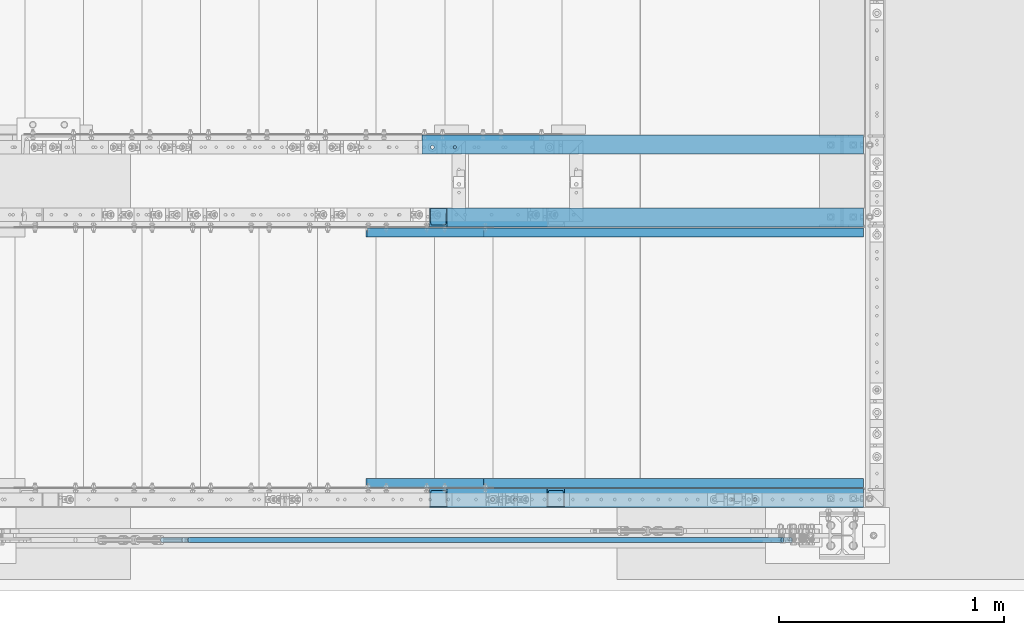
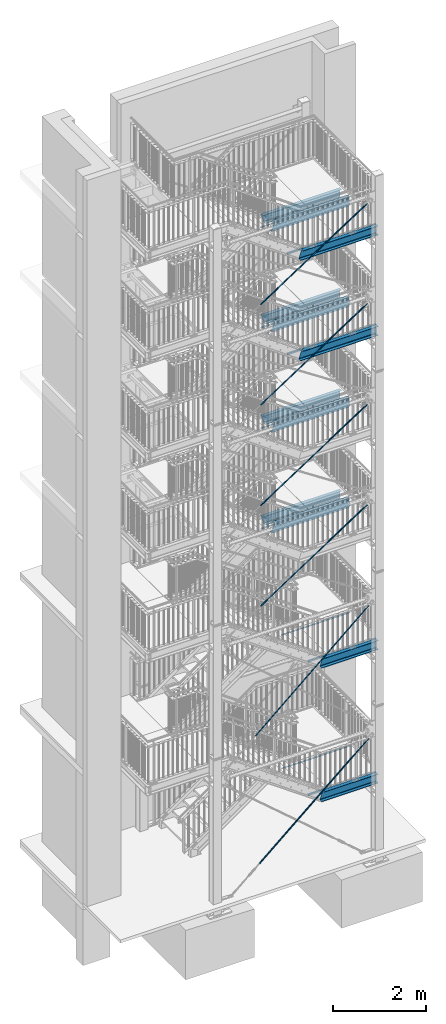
# One storey, part 130 of 831: 22 beams, 6 members, 44 openings.
"""IFC2X3 building model written with IfcOpenShell, lengths in millimetres."""

from ifc_helpers import new_model, entity, si_unit, converted_unit, frame, frame_2d, origin, origin_with_axes, origin_2d, origin_2d_with_axis, place, context, project, spatial, circle, l_section, u_section, extrude, clip, halfspace, material, element, save


model = new_model("IFC2X3")

# Units and contexts
model_context = context("Model", 3, precision=1e-09, world=origin_with_axes())
ifc_project = project(units=[si_unit("LENGTHUNIT", "METRE", prefix="MILLI"), si_unit("AREAUNIT", "SQUARE_METRE"), si_unit("VOLUMEUNIT", "CUBIC_METRE"), converted_unit("PLANEANGLEUNIT", "DEGREE", entity("IfcPlaneAngleMeasure", 0.01745329), si_unit("PLANEANGLEUNIT", "RADIAN"), dimensions=[0, 0, 0, 0, 0, 0, 0])], contexts=[model_context])

# Site, building, storey
site_placement = place(None, origin_with_axes())
site = spatial("IfcSite", under=ifc_project, at=site_placement, Name="Site", CompositionType="ELEMENT")
building_placement = place(site_placement, origin_with_axes())
building = spatial("IfcBuilding", under=site, at=building_placement, Name="Struktur 1", CompositionType="ELEMENT")
storey_placement = place(building_placement, origin_with_axes())
storey = spatial("IfcBuildingStorey", under=building, at=storey_placement, Name="Default Storey", CompositionType="ELEMENT", Elevation=0.0)

# Beam, openings
ifc_material = material(Name="S235JR")
beam_1_placement = place(None, frame((9219.017173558, 5759.036971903, 8516.0), z_axis=(1.0, 0.0, 0.0), x_axis=(0.0, 1.0, 0.0)))
beam_1 = element("IfcBeam", 1, at=beam_1_placement, inside=storey, material=ifc_material, Name="BottomLanding#1", ObjectType="BottomLanding#1", context=model_context, shape_type="Clipping", body=[
    clip(clip(extrude(u_section(Depth=240.0, FlangeWidth=85.0, WebThickness=9.5, FlangeThickness=13.0, FilletRadius=13.0, EdgeRadius=6.5, FlangeSlope=4.574, at=frame_2d((20.2, 0.0))), origin(), (0.0, 0.0, -1.0), 2366.919417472), halfspace(frame((-5759.036971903, -8516.0, -257.304770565), z_axis=(0.0, 0.0, -1.0), x_axis=(-1.0, 0.0, 0.0)), True)), halfspace(frame((-5759.036971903, -9780.725399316, -5311.494172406), z_axis=(0.0, -0.307936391, 0.951406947), x_axis=(1.0, 0.0, 0.0)), True)),
])
opening_1_placement = place(beam_1_placement, frame((15.699, -120.5, -402.303770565), z_axis=(0.0, -1.0, 0.0), x_axis=(1.0, 0.0, 0.0)))
element("IfcOpeningElement", 2, at=opening_1_placement, cuts=beam_1, ObjectType="Opening", context=model_context, shape_type="SweptSolid", body=[
    extrude(circle(Radius=7.001, at=frame_2d((7.001, 0.0), x_axis=(1.0, 0.0))), origin(), (0.0, 0.0, -1.0), 14.0),
])
opening_2_placement = place(beam_1_placement, frame((15.699, -120.5, -302.303770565), z_axis=(0.0, -1.0, 0.0), x_axis=(1.0, 0.0, 0.0)))
element("IfcOpeningElement", 3, at=opening_2_placement, cuts=beam_1, ObjectType="Opening", context=model_context, shape_type="SweptSolid", body=[
    extrude(circle(Radius=7.001, at=frame_2d((7.001, 0.0), x_axis=(1.0, 0.0))), origin(), (0.0, 0.0, -1.0), 14.0),
])

# Beam
beam_2_placement = place(None, frame((6757.757393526, 5722.536971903, 8624.8), z_axis=(-1.0, 0.0, 0.0), x_axis=(0.0, 0.0, -1.0)))
element("IfcBeam", 4, at=beam_2_placement, inside=storey, material=ifc_material, Name="BottomLanding#3", ObjectType="BottomLanding#3", context=model_context, shape_type="SweptSolid", body=[
    extrude(l_section(Depth=40.0, Width=40.0, Thickness=4.0, FilletRadius=6.0, EdgeRadius=3.0, at=frame_2d((8.8, 8.8))), origin(), (0.0, 0.0, -1.0), 2203.956009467),
])

# Beam, openings
beam_3_placement = place(None, frame((6741.392105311, 6124.436971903, 11145.5000003), z_axis=(-1.0, 0.0, 0.0), x_axis=(0.0, -1.0, 0.0)))
beam_3 = element("IfcBeam", 5, at=beam_3_placement, inside=storey, material=ifc_material, Name="Stringer", ObjectType="Stringer", context=model_context, shape_type="Clipping", body=[
    clip(clip(extrude(u_section(Depth=240.0, FlangeWidth=85.0, WebThickness=9.5, FlangeThickness=13.0, FilletRadius=13.0, EdgeRadius=6.5, FlangeSlope=4.574, at=frame_2d((20.2, 0.0))), origin(), (0.0, 0.0, -1.0), 2477.625068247), halfspace(frame((6124.436971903, -11145.5000003, -2220.320297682), z_axis=(0.0, 0.0, 1.0), x_axis=(1.0, 0.0, 0.0)), True)), halfspace(frame((6124.436971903, -8031.601758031, -2894.216134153), z_axis=(0.0, 0.307506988, -0.951545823), x_axis=(-1.0, 0.0, 0.0)), True)),
])
opening_3_placement = place(beam_3_placement, frame((32.7, 120.5, -398.321297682), z_axis=(0.0, 1.0, 0.0), x_axis=(-1.0, 0.0, 0.0)))
element("IfcOpeningElement", 6, at=opening_3_placement, cuts=beam_3, ObjectType="Opening", context=model_context, shape_type="SweptSolid", body=[
    extrude(circle(Radius=7.001, at=frame_2d((0.0, -7.001), x_axis=(1.0, 0.0))), origin(), (0.0, 0.0, -1.0), 14.0),
])
opening_4_placement = place(beam_3_placement, frame((32.7, 120.5, -298.321297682), z_axis=(0.0, 1.0, 0.0), x_axis=(-1.0, 0.0, 0.0)))
element("IfcOpeningElement", 7, at=opening_4_placement, cuts=beam_3, ObjectType="Opening", context=model_context, shape_type="SweptSolid", body=[
    extrude(circle(Radius=7.001, at=frame_2d((0.0, -7.001), x_axis=(1.0, 0.0))), origin(), (0.0, 0.0, -1.0), 14.0),
])
opening_5_placement = place(beam_3_placement, frame((22.7, -120.5, -2175.321297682), z_axis=(0.0, 1.0, 0.0), x_axis=(-1.0, 0.0, 0.0)))
element("IfcOpeningElement", 8, at=opening_5_placement, cuts=beam_3, ObjectType="Opening", context=model_context, shape_type="SweptSolid", body=[
    extrude(circle(Radius=7.001, at=origin_2d_with_axis()), origin(), (0.0, 0.0, 1.0), 14.0),
])
opening_6_placement = place(beam_3_placement, frame((22.7, -120.5, -2075.321297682), z_axis=(0.0, 1.0, 0.0), x_axis=(-1.0, 0.0, 0.0)))
element("IfcOpeningElement", 9, at=opening_6_placement, cuts=beam_3, ObjectType="Opening", context=model_context, shape_type="SweptSolid", body=[
    extrude(circle(Radius=7.001, at=origin_2d_with_axis()), origin(), (0.0, 0.0, 1.0), 14.0),
])

beam_4_placement = place(None, frame((6741.459458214, 6124.436971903, 8516.0), z_axis=(-1.0, 0.0, 0.0), x_axis=(0.0, -1.0, 0.0)))
beam_4 = element("IfcBeam", 10, at=beam_4_placement, inside=storey, material=ifc_material, Name="Stringer", ObjectType="Stringer", context=model_context, shape_type="Clipping", body=[
    clip(clip(extrude(u_section(Depth=240.0, FlangeWidth=85.0, WebThickness=9.5, FlangeThickness=13.0, FilletRadius=13.0, EdgeRadius=6.5, FlangeSlope=4.574, at=frame_2d((20.2, 0.0))), origin(), (0.0, 0.0, -1.0), 2477.557715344), halfspace(frame((6124.436971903, -8516.0, -2220.25294478), z_axis=(0.0, 0.0, 1.0), x_axis=(1.0, 0.0, 0.0)), True)), halfspace(frame((6124.436971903, -5645.874307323, -2126.143079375), z_axis=(0.0, 0.307936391, -0.951406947), x_axis=(-1.0, 0.0, 0.0)), True)),
])
opening_7_placement = place(beam_4_placement, frame((32.7, 120.5, -398.25394478), z_axis=(0.0, 1.0, 0.0), x_axis=(-1.0, 0.0, 0.0)))
element("IfcOpeningElement", 11, at=opening_7_placement, cuts=beam_4, ObjectType="Opening", context=model_context, shape_type="SweptSolid", body=[
    extrude(circle(Radius=7.001, at=frame_2d((0.0, -7.001), x_axis=(1.0, 0.0))), origin(), (0.0, 0.0, -1.0), 14.0),
])
opening_8_placement = place(beam_4_placement, frame((32.7, 120.5, -298.25394478), z_axis=(0.0, 1.0, 0.0), x_axis=(-1.0, 0.0, 0.0)))
element("IfcOpeningElement", 12, at=opening_8_placement, cuts=beam_4, ObjectType="Opening", context=model_context, shape_type="SweptSolid", body=[
    extrude(circle(Radius=7.001, at=frame_2d((0.0, -7.001), x_axis=(1.0, 0.0))), origin(), (0.0, 0.0, -1.0), 14.0),
])
opening_9_placement = place(beam_4_placement, frame((22.7, -120.5, -2075.25394478), z_axis=(0.0, 1.0, 0.0), x_axis=(-1.0, 0.0, 0.0)))
element("IfcOpeningElement", 13, at=opening_9_placement, cuts=beam_4, ObjectType="Opening", context=model_context, shape_type="SweptSolid", body=[
    extrude(circle(Radius=7.001, at=origin_2d_with_axis()), origin(), (0.0, 0.0, 1.0), 14.0),
])
opening_10_placement = place(beam_4_placement, frame((22.7, -120.5, -2175.25394478), z_axis=(0.0, 1.0, 0.0), x_axis=(-1.0, 0.0, 0.0)))
element("IfcOpeningElement", 14, at=opening_10_placement, cuts=beam_4, ObjectType="Opening", context=model_context, shape_type="SweptSolid", body=[
    extrude(circle(Radius=7.001, at=origin_2d_with_axis()), origin(), (0.0, 0.0, 1.0), 14.0),
])

beam_5_placement = place(None, frame((6741.499671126, 6124.436971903, 13776.5000001), z_axis=(-1.0, 0.0, 0.0), x_axis=(0.0, -1.0, 0.0)))
beam_5 = element("IfcBeam", 15, at=beam_5_placement, inside=storey, material=ifc_material, Name="Stringer", ObjectType="Stringer", context=model_context, shape_type="Clipping", body=[
    clip(clip(extrude(u_section(Depth=240.0, FlangeWidth=85.0, WebThickness=9.5, FlangeThickness=13.0, FilletRadius=13.0, EdgeRadius=6.5, FlangeSlope=4.574, at=frame_2d((20.2, 0.0))), origin(), (0.0, 0.0, -1.0), 2477.517502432), halfspace(frame((6124.436971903, -13776.5000001, -2220.212731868), z_axis=(0.0, 0.0, 1.0), x_axis=(1.0, 0.0, 0.0)), True)), halfspace(frame((6124.436971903, -10403.792085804, -3669.278777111), z_axis=(0.0, 0.308193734, -0.951323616), x_axis=(-1.0, 0.0, 0.0)), True)),
])
opening_11_placement = place(beam_5_placement, frame((32.7, 120.5, -398.213731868), z_axis=(0.0, 1.0, 0.0), x_axis=(-1.0, 0.0, 0.0)))
element("IfcOpeningElement", 16, at=opening_11_placement, cuts=beam_5, ObjectType="Opening", context=model_context, shape_type="SweptSolid", body=[
    extrude(circle(Radius=7.001, at=frame_2d((0.0, -7.001), x_axis=(1.0, 0.0))), origin(), (0.0, 0.0, -1.0), 14.0),
])
opening_12_placement = place(beam_5_placement, frame((32.7, 120.5, -298.213731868), z_axis=(0.0, 1.0, 0.0), x_axis=(-1.0, 0.0, 0.0)))
element("IfcOpeningElement", 17, at=opening_12_placement, cuts=beam_5, ObjectType="Opening", context=model_context, shape_type="SweptSolid", body=[
    extrude(circle(Radius=7.001, at=frame_2d((0.0, -7.001), x_axis=(1.0, 0.0))), origin(), (0.0, 0.0, -1.0), 14.0),
])
opening_13_placement = place(beam_5_placement, frame((22.7, -120.5, -2175.213731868), z_axis=(0.0, 1.0, 0.0), x_axis=(-1.0, 0.0, 0.0)))
element("IfcOpeningElement", 18, at=opening_13_placement, cuts=beam_5, ObjectType="Opening", context=model_context, shape_type="SweptSolid", body=[
    extrude(circle(Radius=7.001, at=origin_2d_with_axis()), origin(), (0.0, 0.0, 1.0), 14.0),
])
opening_14_placement = place(beam_5_placement, frame((22.7, -120.5, -2075.213731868), z_axis=(0.0, 1.0, 0.0), x_axis=(-1.0, 0.0, 0.0)))
element("IfcOpeningElement", 19, at=opening_14_placement, cuts=beam_5, ObjectType="Opening", context=model_context, shape_type="SweptSolid", body=[
    extrude(circle(Radius=7.001, at=origin_2d_with_axis()), origin(), (0.0, 0.0, 1.0), 14.0),
])

beam_6_placement = place(None, frame((6741.297112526, 6124.436971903, 16404.0000003), z_axis=(-1.0, 0.0, 0.0), x_axis=(0.0, -1.0, 0.0)))
beam_6 = element("IfcBeam", 20, at=beam_6_placement, inside=storey, material=ifc_material, Name="Stringer", ObjectType="Stringer", context=model_context, shape_type="Clipping", body=[
    clip(clip(extrude(u_section(Depth=240.0, FlangeWidth=85.0, WebThickness=9.5, FlangeThickness=13.0, FilletRadius=13.0, EdgeRadius=6.5, FlangeSlope=4.574, at=frame_2d((20.2, 0.0))), origin(), (0.0, 0.0, -1.0), 2477.720061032), halfspace(frame((6124.436971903, -16404.0000003, -2220.415290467), z_axis=(0.0, 0.0, 1.0), x_axis=(1.0, 0.0, 0.0)), True)), halfspace(frame((6124.436971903, -12802.606591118, -4426.958467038), z_axis=(0.0, 0.306904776, -0.951740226), x_axis=(-1.0, 0.0, 0.0)), True)),
])
opening_15_placement = place(beam_6_placement, frame((32.7, 120.5, -398.416290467), z_axis=(0.0, 1.0, 0.0), x_axis=(-1.0, 0.0, 0.0)))
element("IfcOpeningElement", 21, at=opening_15_placement, cuts=beam_6, ObjectType="Opening", context=model_context, shape_type="SweptSolid", body=[
    extrude(circle(Radius=7.001, at=frame_2d((0.0, -7.001), x_axis=(1.0, 0.0))), origin(), (0.0, 0.0, -1.0), 14.0),
])
opening_16_placement = place(beam_6_placement, frame((32.7, 120.5, -298.416290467), z_axis=(0.0, 1.0, 0.0), x_axis=(-1.0, 0.0, 0.0)))
element("IfcOpeningElement", 22, at=opening_16_placement, cuts=beam_6, ObjectType="Opening", context=model_context, shape_type="SweptSolid", body=[
    extrude(circle(Radius=7.001, at=frame_2d((0.0, -7.001), x_axis=(1.0, 0.0))), origin(), (0.0, 0.0, -1.0), 14.0),
])
opening_17_placement = place(beam_6_placement, frame((22.7, -120.5, -2075.416290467), z_axis=(0.0, 1.0, 0.0), x_axis=(-1.0, 0.0, 0.0)))
element("IfcOpeningElement", 23, at=opening_17_placement, cuts=beam_6, ObjectType="Opening", context=model_context, shape_type="SweptSolid", body=[
    extrude(circle(Radius=7.001, at=origin_2d_with_axis()), origin(), (0.0, 0.0, 1.0), 14.0),
])
opening_18_placement = place(beam_6_placement, frame((22.7, -120.5, -2175.416290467), z_axis=(0.0, 1.0, 0.0), x_axis=(-1.0, 0.0, 0.0)))
element("IfcOpeningElement", 24, at=opening_18_placement, cuts=beam_6, ObjectType="Opening", context=model_context, shape_type="SweptSolid", body=[
    extrude(circle(Radius=7.001, at=origin_2d_with_axis()), origin(), (0.0, 0.0, 1.0), 14.0),
])

beam_7_placement = place(None, frame((9219.017173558, 5759.036971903, 11145.5000003), z_axis=(1.0, 0.0, 0.0), x_axis=(0.0, 1.0, 0.0)))
beam_7 = element("IfcBeam", 25, at=beam_7_placement, inside=storey, material=ifc_material, Name="BottomLanding#1", ObjectType="BottomLanding#1", context=model_context, shape_type="Clipping", body=[
    clip(clip(extrude(u_section(Depth=240.0, FlangeWidth=85.0, WebThickness=9.5, FlangeThickness=13.0, FilletRadius=13.0, EdgeRadius=6.5, FlangeSlope=4.574, at=frame_2d((20.2, 0.0))), origin(), (0.0, 0.0, -1.0), 2366.776191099), halfspace(frame((-5759.036971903, -11145.5000003, -257.304770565), z_axis=(0.0, 0.0, -1.0), x_axis=(-1.0, 0.0, 0.0)), True)), halfspace(frame((-5759.036971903, -12161.289703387, -6075.770068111), z_axis=(0.0, -0.307506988, 0.951545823), x_axis=(1.0, 0.0, 0.0)), True)),
])
opening_19_placement = place(beam_7_placement, frame((15.699, -120.5, -402.303770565), z_axis=(0.0, -1.0, 0.0), x_axis=(1.0, 0.0, 0.0)))
element("IfcOpeningElement", 26, at=opening_19_placement, cuts=beam_7, ObjectType="Opening", context=model_context, shape_type="SweptSolid", body=[
    extrude(circle(Radius=7.001, at=frame_2d((7.001, 0.0), x_axis=(1.0, 0.0))), origin(), (0.0, 0.0, -1.0), 14.0),
])
opening_20_placement = place(beam_7_placement, frame((15.699, -120.5, -302.303770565), z_axis=(0.0, -1.0, 0.0), x_axis=(1.0, 0.0, 0.0)))
element("IfcOpeningElement", 27, at=opening_20_placement, cuts=beam_7, ObjectType="Opening", context=model_context, shape_type="SweptSolid", body=[
    extrude(circle(Radius=7.001, at=frame_2d((7.001, 0.0), x_axis=(1.0, 0.0))), origin(), (0.0, 0.0, -1.0), 14.0),
])

# Beam
beam_8_placement = place(None, frame((6757.455876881, 5722.536971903, 11254.3000003), z_axis=(-1.0, 0.0, 0.0), x_axis=(0.0, 0.0, -1.0)))
element("IfcBeam", 28, at=beam_8_placement, inside=storey, material=ifc_material, Name="BottomLanding#3", ObjectType="BottomLanding#3", context=model_context, shape_type="SweptSolid", body=[
    extrude(l_section(Depth=40.0, Width=40.0, Thickness=4.0, FilletRadius=6.0, EdgeRadius=3.0, at=frame_2d((8.8, 8.8))), origin(), (0.0, 0.0, -1.0), 2204.257526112),
])

# Beam, openings
beam_9_placement = place(None, frame((9219.017173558, 5759.036971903, 13776.5000001), z_axis=(1.0, 0.0, 0.0), x_axis=(0.0, 1.0, 0.0)))
beam_9 = element("IfcBeam", 29, at=beam_9_placement, inside=storey, material=ifc_material, Name="BottomLanding#1", ObjectType="BottomLanding#1", context=model_context, shape_type="Clipping", body=[
    clip(clip(extrude(u_section(Depth=240.0, FlangeWidth=85.0, WebThickness=9.5, FlangeThickness=13.0, FilletRadius=13.0, EdgeRadius=6.5, FlangeSlope=4.574, at=frame_2d((20.2, 0.0))), origin(), (0.0, 0.0, -1.0), 2367.00516843), halfspace(frame((-5759.036971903, -13776.5000001, -257.304770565), z_axis=(0.0, 0.0, -1.0), x_axis=(-1.0, 0.0, 0.0)), True)), halfspace(frame((-5759.036971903, -14541.73622123, -6856.907864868), z_axis=(0.0, -0.308193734, 0.951323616), x_axis=(1.0, 0.0, 0.0)), True)),
])
opening_21_placement = place(beam_9_placement, frame((15.699, -120.5, -302.303770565), z_axis=(0.0, -1.0, 0.0), x_axis=(1.0, 0.0, 0.0)))
element("IfcOpeningElement", 30, at=opening_21_placement, cuts=beam_9, ObjectType="Opening", context=model_context, shape_type="SweptSolid", body=[
    extrude(circle(Radius=7.001, at=frame_2d((7.001, 0.0), x_axis=(1.0, 0.0))), origin(), (0.0, 0.0, -1.0), 14.0),
])
opening_22_placement = place(beam_9_placement, frame((15.699, -120.5, -402.303770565), z_axis=(0.0, -1.0, 0.0), x_axis=(1.0, 0.0, 0.0)))
element("IfcOpeningElement", 31, at=opening_22_placement, cuts=beam_9, ObjectType="Opening", context=model_context, shape_type="SweptSolid", body=[
    extrude(circle(Radius=7.001, at=frame_2d((7.001, 0.0), x_axis=(1.0, 0.0))), origin(), (0.0, 0.0, -1.0), 14.0),
])

beam_10_placement = place(None, frame((9219.017173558, 4554.436971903, 13776.5000001), z_axis=(-1.0, 0.0, 0.0), x_axis=(0.0, -1.0, 0.0)))
beam_10 = element("IfcBeam", 32, at=beam_10_placement, inside=storey, material=ifc_material, Name="BottomLanding#2", ObjectType="BottomLanding#2", context=model_context, shape_type="Clipping", body=[
    clip(clip(extrude(u_section(Depth=240.0, FlangeWidth=85.0, WebThickness=9.5, FlangeThickness=13.0, FilletRadius=13.0, EdgeRadius=6.5, FlangeSlope=4.574, at=frame_2d((20.2, 0.0))), origin(), (0.0, 0.0, 1.0), 2367.00516843), halfspace(frame((4554.436971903, -13776.5000001, 257.304770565), z_axis=(0.0, 0.0, 1.0), x_axis=(1.0, 0.0, 0.0)), True)), halfspace(frame((4554.436971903, -14541.73622123, 6856.907864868), z_axis=(0.0, -0.308193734, -0.951323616), x_axis=(-1.0, 0.0, 0.0)), True)),
])
opening_23_placement = place(beam_10_placement, frame((27.7, 120.5, 1897.224056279), z_axis=(0.0, 1.0, 0.0), x_axis=(-1.0, 0.0, 0.0)))
element("IfcOpeningElement", 33, at=opening_23_placement, cuts=beam_10, ObjectType="Opening", context=model_context, shape_type="SweptSolid", body=[
    extrude(circle(Radius=7.001, at=frame_2d((0.0, 7.001), x_axis=(1.0, 0.0))), origin(), (0.0, 0.0, -1.0), 14.0),
])
opening_24_placement = place(beam_10_placement, frame((27.7, 120.5, 1797.224056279), z_axis=(0.0, 1.0, 0.0), x_axis=(-1.0, 0.0, 0.0)))
element("IfcOpeningElement", 34, at=opening_24_placement, cuts=beam_10, ObjectType="Opening", context=model_context, shape_type="SweptSolid", body=[
    extrude(circle(Radius=7.001, at=frame_2d((0.0, 7.001), x_axis=(1.0, 0.0))), origin(), (0.0, 0.0, -1.0), 14.0),
])
opening_25_placement = place(beam_10_placement, frame((27.7, 120.5, 912.223913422), z_axis=(0.0, 1.0, 0.0), x_axis=(-1.0, 0.0, 0.0)))
element("IfcOpeningElement", 35, at=opening_25_placement, cuts=beam_10, ObjectType="Opening", context=model_context, shape_type="SweptSolid", body=[
    extrude(circle(Radius=7.001, at=frame_2d((0.0, 7.001), x_axis=(1.0, 0.0))), origin(), (0.0, 0.0, -1.0), 14.0),
])
opening_26_placement = place(beam_10_placement, frame((27.7, 120.5, 812.223913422), z_axis=(0.0, 1.0, 0.0), x_axis=(-1.0, 0.0, 0.0)))
element("IfcOpeningElement", 36, at=opening_26_placement, cuts=beam_10, ObjectType="Opening", context=model_context, shape_type="SweptSolid", body=[
    extrude(circle(Radius=7.001, at=frame_2d((0.0, 7.001), x_axis=(1.0, 0.0))), origin(), (0.0, 0.0, -1.0), 14.0),
])
opening_27_placement = place(beam_10_placement, frame((29.701, -120.5, 402.303770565), z_axis=(0.0, -1.0, 0.0), x_axis=(1.0, 0.0, 0.0)))
element("IfcOpeningElement", 37, at=opening_27_placement, cuts=beam_10, ObjectType="Opening", context=model_context, shape_type="SweptSolid", body=[
    extrude(circle(Radius=7.001, at=frame_2d((-7.001, 0.0), x_axis=(1.0, 0.0))), origin(), (0.0, 0.0, -1.0), 14.0),
])
opening_28_placement = place(beam_10_placement, frame((29.701, -120.5, 302.303770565), z_axis=(0.0, -1.0, 0.0), x_axis=(1.0, 0.0, 0.0)))
element("IfcOpeningElement", 38, at=opening_28_placement, cuts=beam_10, ObjectType="Opening", context=model_context, shape_type="SweptSolid", body=[
    extrude(circle(Radius=7.001, at=frame_2d((-7.001, 0.0), x_axis=(1.0, 0.0))), origin(), (0.0, 0.0, -1.0), 14.0),
])

# Beams
for number, where, z_axis, x_axis, name in (
    (39, (8961.713402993, 4590.936971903, 13885.3000001), (1.0, 0.0, 0.0), (0.0, 0.0, -1.0), "BottomLanding#3"),
    (40, (6757.937594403, 5722.536971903, 13885.3000001), (-1.0, 0.0, 0.0), (0.0, 0.0, -1.0), "BottomLanding#3"),
):
    element("IfcBeam", number, at=place(None, frame(where, z_axis=z_axis, x_axis=x_axis)), inside=storey, material=ifc_material, Name=name, ObjectType="BottomLanding#3", context=model_context, shape_type="SweptSolid", body=[
        extrude(l_section(Depth=40.0, Width=40.0, Thickness=4.0, FilletRadius=6.0, EdgeRadius=3.0, at=frame_2d((8.8, 8.8))), origin(), (0.0, 0.0, -1.0), 2203.77580859),
    ])

# Beam, openings
beam_11_placement = place(None, frame((9219.017173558, 5759.036971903, 16404.0000003), z_axis=(1.0, 0.0, 0.0), x_axis=(0.0, 1.0, 0.0)))
beam_11 = element("IfcBeam", 41, at=beam_11_placement, inside=storey, material=ifc_material, Name="BottomLanding#1", ObjectType="BottomLanding#1", context=model_context, shape_type="Clipping", body=[
    clip(clip(extrude(u_section(Depth=240.0, FlangeWidth=85.0, WebThickness=9.5, FlangeThickness=13.0, FilletRadius=13.0, EdgeRadius=6.5, FlangeSlope=4.574, at=frame_2d((20.2, 0.0))), origin(), (0.0, 0.0, -1.0), 2366.575023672), halfspace(frame((-5759.036971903, -16404.0000003, -257.304770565), z_axis=(0.0, 0.0, -1.0), x_axis=(-1.0, 0.0, 0.0)), True)), halfspace(frame((-5759.036971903, -16925.049146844, -7603.195357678), z_axis=(0.0, -0.306904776, 0.951740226), x_axis=(1.0, 0.0, 0.0)), True)),
])
opening_29_placement = place(beam_11_placement, frame((15.699, -120.5, -402.303770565), z_axis=(0.0, -1.0, 0.0), x_axis=(1.0, 0.0, 0.0)))
element("IfcOpeningElement", 42, at=opening_29_placement, cuts=beam_11, ObjectType="Opening", context=model_context, shape_type="SweptSolid", body=[
    extrude(circle(Radius=7.001, at=frame_2d((7.001, 0.0), x_axis=(1.0, 0.0))), origin(), (0.0, 0.0, -1.0), 14.0),
])
opening_30_placement = place(beam_11_placement, frame((15.699, -120.5, -302.303770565), z_axis=(0.0, -1.0, 0.0), x_axis=(1.0, 0.0, 0.0)))
element("IfcOpeningElement", 43, at=opening_30_placement, cuts=beam_11, ObjectType="Opening", context=model_context, shape_type="SweptSolid", body=[
    extrude(circle(Radius=7.001, at=frame_2d((7.001, 0.0), x_axis=(1.0, 0.0))), origin(), (0.0, 0.0, -1.0), 14.0),
])

beam_12_placement = place(None, frame((9219.017173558, 4554.436971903, 16404.0000003), z_axis=(-1.0, 0.0, 0.0), x_axis=(0.0, -1.0, 0.0)))
beam_12 = element("IfcBeam", 44, at=beam_12_placement, inside=storey, material=ifc_material, Name="BottomLanding#2", ObjectType="BottomLanding#2", context=model_context, shape_type="Clipping", body=[
    clip(clip(extrude(u_section(Depth=240.0, FlangeWidth=85.0, WebThickness=9.5, FlangeThickness=13.0, FilletRadius=13.0, EdgeRadius=6.5, FlangeSlope=4.574, at=frame_2d((20.2, 0.0))), origin(), (0.0, 0.0, 1.0), 2366.575023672), halfspace(frame((4554.436971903, -16404.0000003, 257.304770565), z_axis=(0.0, 0.0, 1.0), x_axis=(1.0, 0.0, 0.0)), True)), halfspace(frame((4554.436971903, -16925.049146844, 7603.195357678), z_axis=(0.0, -0.306904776, -0.951740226), x_axis=(-1.0, 0.0, 0.0)), True)),
])
opening_31_placement = place(beam_12_placement, frame((27.7, 120.5, 1897.224056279), z_axis=(0.0, 1.0, 0.0), x_axis=(-1.0, 0.0, 0.0)))
element("IfcOpeningElement", 45, at=opening_31_placement, cuts=beam_12, ObjectType="Opening", context=model_context, shape_type="SweptSolid", body=[
    extrude(circle(Radius=7.001, at=frame_2d((0.0, 7.001), x_axis=(1.0, 0.0))), origin(), (0.0, 0.0, -1.0), 14.0),
])
opening_32_placement = place(beam_12_placement, frame((27.7, 120.5, 1797.224056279), z_axis=(0.0, 1.0, 0.0), x_axis=(-1.0, 0.0, 0.0)))
element("IfcOpeningElement", 46, at=opening_32_placement, cuts=beam_12, ObjectType="Opening", context=model_context, shape_type="SweptSolid", body=[
    extrude(circle(Radius=7.001, at=frame_2d((0.0, 7.001), x_axis=(1.0, 0.0))), origin(), (0.0, 0.0, -1.0), 14.0),
])
opening_33_placement = place(beam_12_placement, frame((27.7, 120.5, 912.223913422), z_axis=(0.0, 1.0, 0.0), x_axis=(-1.0, 0.0, 0.0)))
element("IfcOpeningElement", 47, at=opening_33_placement, cuts=beam_12, ObjectType="Opening", context=model_context, shape_type="SweptSolid", body=[
    extrude(circle(Radius=7.001, at=frame_2d((0.0, 7.001), x_axis=(1.0, 0.0))), origin(), (0.0, 0.0, -1.0), 14.0),
])
opening_34_placement = place(beam_12_placement, frame((27.7, 120.5, 812.223913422), z_axis=(0.0, 1.0, 0.0), x_axis=(-1.0, 0.0, 0.0)))
element("IfcOpeningElement", 48, at=opening_34_placement, cuts=beam_12, ObjectType="Opening", context=model_context, shape_type="SweptSolid", body=[
    extrude(circle(Radius=7.001, at=frame_2d((0.0, 7.001), x_axis=(1.0, 0.0))), origin(), (0.0, 0.0, -1.0), 14.0),
])
opening_35_placement = place(beam_12_placement, frame((29.701, -120.5, 402.303770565), z_axis=(0.0, -1.0, 0.0), x_axis=(1.0, 0.0, 0.0)))
element("IfcOpeningElement", 49, at=opening_35_placement, cuts=beam_12, ObjectType="Opening", context=model_context, shape_type="SweptSolid", body=[
    extrude(circle(Radius=7.001, at=frame_2d((-7.001, 0.0), x_axis=(1.0, 0.0))), origin(), (0.0, 0.0, -1.0), 14.0),
])
opening_36_placement = place(beam_12_placement, frame((29.701, -120.5, 302.303770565), z_axis=(0.0, -1.0, 0.0), x_axis=(1.0, 0.0, 0.0)))
element("IfcOpeningElement", 50, at=opening_36_placement, cuts=beam_12, ObjectType="Opening", context=model_context, shape_type="SweptSolid", body=[
    extrude(circle(Radius=7.001, at=frame_2d((-7.001, 0.0), x_axis=(1.0, 0.0))), origin(), (0.0, 0.0, -1.0), 14.0),
])

# Beams
for number, where, z_axis, x_axis, name in (
    (51, (8961.713402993, 4590.936971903, 16512.8000003), (1.0, 0.0, 0.0), (0.0, 0.0, -1.0), "BottomLanding#3"),
    (52, (6751.713402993, 5722.536971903, 16512.8000003), (-1.0, 0.0, 0.0), (0.0, 0.0, -1.0), "BottomLanding#3"),
):
    element("IfcBeam", number, at=place(None, frame(where, z_axis=z_axis, x_axis=x_axis)), inside=storey, material=ifc_material, Name=name, ObjectType="BottomLanding#3", context=model_context, shape_type="SweptSolid", body=[
        extrude(l_section(Depth=40.0, Width=40.0, Thickness=4.0, FilletRadius=6.0, EdgeRadius=3.0, at=frame_2d((8.8, 8.8))), origin(), (0.0, 0.0, -1.0), 2210.0),
    ])

# Beam, openings
beam_13_placement = place(None, frame((9219.017173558, 4554.436971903, 2061.0526312), z_axis=(-1.0, 0.0, 0.0), x_axis=(0.0, -1.0, 0.0)))
beam_13 = element("IfcBeam", 53, at=beam_13_placement, inside=storey, material=ifc_material, Name="BottomLanding#2", ObjectType="BottomLanding#2", context=model_context, shape_type="Clipping", body=[
    clip(clip(extrude(u_section(Depth=240.0, FlangeWidth=85.0, WebThickness=9.5, FlangeThickness=13.0, FilletRadius=13.0, EdgeRadius=6.5, FlangeSlope=4.574, at=frame_2d((20.2, 0.0))), origin(), (0.0, 0.0, 1.0), 1845.747262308), halfspace(frame((4554.436971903, -2061.0526312, 257.304770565), z_axis=(0.0, 0.0, 1.0), x_axis=(1.0, 0.0, 0.0)), True)), halfspace(frame((4554.436971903, -4072.348471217, 2926.031410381), z_axis=(0.0, -0.304437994, -0.952532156), x_axis=(-1.0, 0.0, 0.0)), True)),
])
opening_37_placement = place(beam_13_placement, frame((27.7, 120.5, 831.84206423), z_axis=(0.0, 1.0, 0.0), x_axis=(-1.0, 0.0, 0.0)))
element("IfcOpeningElement", 54, at=opening_37_placement, cuts=beam_13, ObjectType="Opening", context=model_context, shape_type="SweptSolid", body=[
    extrude(circle(Radius=7.001, at=frame_2d((0.0, 7.001), x_axis=(1.0, 0.0))), origin(), (0.0, 0.0, -1.0), 14.0),
])
opening_38_placement = place(beam_13_placement, frame((27.7, 120.5, 731.84206423), z_axis=(0.0, 1.0, 0.0), x_axis=(-1.0, 0.0, 0.0)))
element("IfcOpeningElement", 55, at=opening_38_placement, cuts=beam_13, ObjectType="Opening", context=model_context, shape_type="SweptSolid", body=[
    extrude(circle(Radius=7.001, at=frame_2d((0.0, 7.001), x_axis=(1.0, 0.0))), origin(), (0.0, 0.0, -1.0), 14.0),
])
opening_39_placement = place(beam_13_placement, frame((29.701, -120.5, 402.303770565), z_axis=(0.0, -1.0, 0.0), x_axis=(1.0, 0.0, 0.0)))
element("IfcOpeningElement", 56, at=opening_39_placement, cuts=beam_13, ObjectType="Opening", context=model_context, shape_type="SweptSolid", body=[
    extrude(circle(Radius=7.001, at=frame_2d((-7.001, 0.0), x_axis=(1.0, 0.0))), origin(), (0.0, 0.0, -1.0), 14.0),
])
opening_40_placement = place(beam_13_placement, frame((29.701, -120.5, 302.303770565), z_axis=(0.0, -1.0, 0.0), x_axis=(1.0, 0.0, 0.0)))
element("IfcOpeningElement", 57, at=opening_40_placement, cuts=beam_13, ObjectType="Opening", context=model_context, shape_type="SweptSolid", body=[
    extrude(circle(Radius=7.001, at=frame_2d((-7.001, 0.0), x_axis=(1.0, 0.0))), origin(), (0.0, 0.0, -1.0), 14.0),
])

# Beams
for number, where, z_axis, x_axis, name in (
    (58, (8961.713402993, 4590.936971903, 2169.8526312), (1.0, 0.0, 0.0), (0.0, 0.0, -1.0), "BottomLanding#3"),
    (59, (7275.270214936, 5722.536971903, 2169.8526312), (-1.0, 0.0, 0.0), (0.0, 0.0, -1.0), "BottomLanding#3"),
):
    element("IfcBeam", number, at=place(None, frame(where, z_axis=z_axis, x_axis=x_axis)), inside=storey, material=ifc_material, Name=name, ObjectType="BottomLanding#3", context=model_context, shape_type="SweptSolid", body=[
        extrude(l_section(Depth=40.0, Width=40.0, Thickness=4.0, FilletRadius=6.0, EdgeRadius=3.0, at=frame_2d((8.8, 8.8))), origin(), (0.0, 0.0, -1.0), 1686.443188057),
    ])

# Beam, openings
beam_14_placement = place(None, frame((9219.017173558, 4554.436971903, 5554.8947367), z_axis=(-1.0, 0.0, 0.0), x_axis=(0.0, -1.0, 0.0)))
beam_14 = element("IfcBeam", 60, at=beam_14_placement, inside=storey, material=ifc_material, Name="BottomLanding#2", ObjectType="BottomLanding#2", context=model_context, shape_type="Clipping", body=[
    clip(clip(extrude(u_section(Depth=240.0, FlangeWidth=85.0, WebThickness=9.5, FlangeThickness=13.0, FilletRadius=13.0, EdgeRadius=6.5, FlangeSlope=4.574, at=frame_2d((20.2, 0.0))), origin(), (0.0, 0.0, 1.0), 1844.790556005), halfspace(frame((4554.436971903, -5554.8947367, 257.304770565), z_axis=(0.0, 0.0, 1.0), x_axis=(1.0, 0.0, 0.0)), True)), halfspace(frame((4554.436971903, -7233.811372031, 3911.720022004), z_axis=(0.0, -0.301609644, -0.953431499), x_axis=(-1.0, 0.0, 0.0)), True)),
])
opening_41_placement = place(beam_14_placement, frame((27.7, 120.5, 912.223913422), z_axis=(0.0, 1.0, 0.0), x_axis=(-1.0, 0.0, 0.0)))
element("IfcOpeningElement", 61, at=opening_41_placement, cuts=beam_14, ObjectType="Opening", context=model_context, shape_type="SweptSolid", body=[
    extrude(circle(Radius=7.001, at=frame_2d((0.0, 7.001), x_axis=(1.0, 0.0))), origin(), (0.0, 0.0, -1.0), 14.0),
])
opening_42_placement = place(beam_14_placement, frame((27.7, 120.5, 812.223913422), z_axis=(0.0, 1.0, 0.0), x_axis=(-1.0, 0.0, 0.0)))
element("IfcOpeningElement", 62, at=opening_42_placement, cuts=beam_14, ObjectType="Opening", context=model_context, shape_type="SweptSolid", body=[
    extrude(circle(Radius=7.001, at=frame_2d((0.0, 7.001), x_axis=(1.0, 0.0))), origin(), (0.0, 0.0, -1.0), 14.0),
])
opening_43_placement = place(beam_14_placement, frame((29.701, -120.5, 302.303770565), z_axis=(0.0, -1.0, 0.0), x_axis=(1.0, 0.0, 0.0)))
element("IfcOpeningElement", 63, at=opening_43_placement, cuts=beam_14, ObjectType="Opening", context=model_context, shape_type="SweptSolid", body=[
    extrude(circle(Radius=7.001, at=frame_2d((-7.001, 0.0), x_axis=(1.0, 0.0))), origin(), (0.0, 0.0, -1.0), 14.0),
])
opening_44_placement = place(beam_14_placement, frame((29.701, -120.5, 402.303770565), z_axis=(0.0, -1.0, 0.0), x_axis=(1.0, 0.0, 0.0)))
element("IfcOpeningElement", 64, at=opening_44_placement, cuts=beam_14, ObjectType="Opening", context=model_context, shape_type="SweptSolid", body=[
    extrude(circle(Radius=7.001, at=frame_2d((-7.001, 0.0), x_axis=(1.0, 0.0))), origin(), (0.0, 0.0, -1.0), 14.0),
])

# Beams
for number, where, z_axis, x_axis, name in (
    (65, (8961.713402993, 4590.936971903, 5663.6947367), (1.0, 0.0, 0.0), (0.0, 0.0, -1.0), "BottomLanding#3"),
    (66, (7273.207299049, 5722.536971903, 5663.6947367), (-1.0, 0.0, 0.0), (0.0, 0.0, -1.0), "BottomLanding#3"),
):
    element("IfcBeam", number, at=place(None, frame(where, z_axis=z_axis, x_axis=x_axis)), inside=storey, material=ifc_material, Name=name, ObjectType="BottomLanding#3", context=model_context, shape_type="SweptSolid", body=[
        extrude(l_section(Depth=40.0, Width=40.0, Thickness=4.0, FilletRadius=6.0, EdgeRadius=3.0, at=frame_2d((8.8, 8.8))), origin(), (0.0, 0.0, -1.0), 1688.506103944),
    ])

# Members
member_1_placement = place(None, frame((8638.256627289, 4346.736971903, 3315.333465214), z_axis=(0.757867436, 0.0, 0.652408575), x_axis=(-0.652408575, 0.0, 0.757867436)))
element("IfcMember", 67, at=member_1_placement, inside=storey, material=ifc_material, Name="-", ObjectType="-", context=model_context, shape_type="SweptSolid", body=[
    extrude(circle(Radius=11.0, at=origin_2d()), origin(), (0.0, 0.0, -1.0), 3558.714022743),
])
member_2_placement = place(None, frame((8601.498957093, 4346.736971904, 9442.924079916), z_axis=(0.836006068, 0.0, 0.548720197), x_axis=(-0.548720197, 0.0, 0.836006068)))
element("IfcMember", 68, at=member_2_placement, inside=storey, material=ifc_material, Name="-", ObjectType="-", context=model_context, shape_type="SweptSolid", body=[
    extrude(circle(Radius=11.0, at=origin_2d()), origin(), (0.0, 0.0, -1.0), 3152.493860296),
])
member_3_placement = place(None, frame((8640.181685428, 4346.736971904, 6788.804321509), z_axis=(0.755906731, 0.0, 0.654679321), x_axis=(-0.654679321, 0.0, 0.755906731)))
element("IfcMember", 69, at=member_3_placement, inside=storey, material=ifc_material, Name="-", ObjectType="-", context=model_context, shape_type="SweptSolid", body=[
    extrude(circle(Radius=11.0, at=origin_2d()), origin(), (0.0, 0.0, -1.0), 3695.891465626),
])
member_4_placement = place(None, frame((8601.347465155, 4346.736971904, 12070.155526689), z_axis=(0.836484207, 0.0, 0.547991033), x_axis=(-0.547991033, 0.0, 0.836484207)))
element("IfcMember", 70, at=member_4_placement, inside=storey, material=ifc_material, Name="-", ObjectType="-", context=model_context, shape_type="SweptSolid", body=[
    extrude(circle(Radius=11.0, at=origin_2d()), origin(), (0.0, 0.0, -1.0), 3149.752466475),
])
member_5_placement = place(None, frame((8601.589769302, 4346.736971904, 14704.785339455), z_axis=(0.835719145, 0.0, 0.549157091), x_axis=(-0.549157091, 0.0, 0.835719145)))
element("IfcMember", 71, at=member_5_placement, inside=storey, material=ifc_material, Name="-", ObjectType="-", context=model_context, shape_type="SweptSolid", body=[
    extrude(circle(Radius=11.0, at=origin_2d()), origin(), (0.0, 0.0, -1.0), 3154.140224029),
])
member_6_placement = place(None, frame((8601.135141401, 4346.736971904, 17325.480034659), z_axis=(0.837153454, 0.0, 0.546968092), x_axis=(-0.546968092, 0.0, 0.837153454)))
element("IfcMember", 72, at=member_6_placement, inside=storey, material=ifc_material, Name="-", ObjectType="-", context=model_context, shape_type="SweptSolid", body=[
    extrude(circle(Radius=11.0, at=origin_2d()), origin(), (0.0, 0.0, -1.0), 3145.919934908),
])

save(model, "model.ifc")
